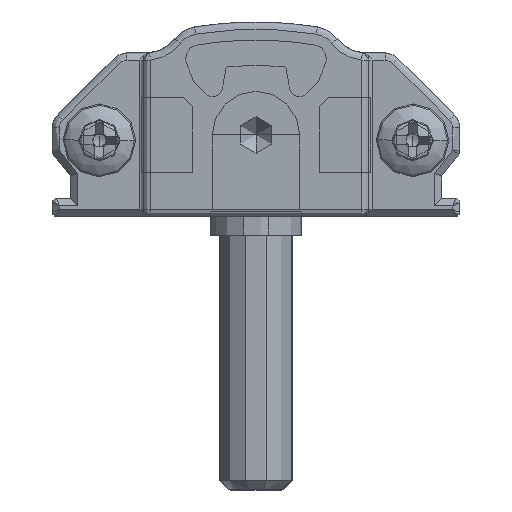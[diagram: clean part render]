
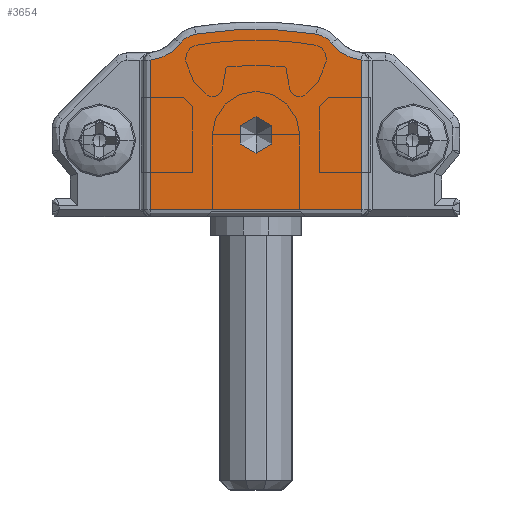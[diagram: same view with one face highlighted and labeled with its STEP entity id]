
A CAD part, front view. The second image highlights one B-rep face of the part: STEP entity #3654.
In plain terms, the highlighted planar face has unit normal (0, -1, 0).
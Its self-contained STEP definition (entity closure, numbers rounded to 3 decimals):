
#193 = EDGE_CURVE ( 'NONE', #46287, #13852, #4787, .T. ) ;
#593 = CARTESIAN_POINT ( 'NONE',  ( 5.162, -15., 11. ) ) ;
#653 = CARTESIAN_POINT ( 'NONE',  ( 5.4, -15., 0.4 ) ) ;
#662 = CARTESIAN_POINT ( 'NONE',  ( 14.3, -15., 8.75 ) ) ;
#3278 = VERTEX_POINT ( 'NONE', #33122 ) ;
#3499 = VERTEX_POINT ( 'NONE', #20748 ) ;
#3533 = AXIS2_PLACEMENT_3D ( 'NONE', #662, #25837, #21174 ) ;
#3541 = VERTEX_POINT ( 'NONE', #45915 ) ;
#3654 = ADVANCED_FACE ( 'NONE', ( #40175, #17892 ), #10951, .T. ) ;
#4308 = VERTEX_POINT ( 'NONE', #40908 ) ;
#4335 = CARTESIAN_POINT ( 'NONE',  ( 22.15, -15., 3.606 ) ) ;
#4787 = CIRCLE ( 'NONE', #31346, 2.4 ) ;
#4869 = DIRECTION ( 'NONE',  ( 0., 0., -1. ) ) ;
#4993 = CARTESIAN_POINT ( 'NONE',  ( 7.068, -15., 9.541 ) ) ;
#5138 = CIRCLE ( 'NONE', #24878, 1. ) ;
#5271 = VECTOR ( 'NONE', #9694, 1000. ) ;
#5775 = CIRCLE ( 'NONE', #3533, 1.3 ) ;
#6877 = EDGE_LOOP ( 'NONE', ( #16548, #38852, #44371, #19578, #12043, #13942, #20841, #23109 ) ) ;
#7209 = CARTESIAN_POINT ( 'NONE',  ( 11.2, -15., 4.5 ) ) ;
#7555 = CARTESIAN_POINT ( 'NONE',  ( 8.1, -15., 8.75 ) ) ;
#8182 = CARTESIAN_POINT ( 'NONE',  ( 11.2, -15., 4.5 ) ) ;
#9694 = DIRECTION ( 'NONE',  ( 1., 0., 0. ) ) ;
#10792 = EDGE_LOOP ( 'NONE', ( #26060, #15019 ) ) ;
#10921 = DIRECTION ( 'NONE',  ( 0., 0., -1. ) ) ;
#10951 = PLANE ( 'NONE',  #39813 ) ;
#11096 = DIRECTION ( 'NONE',  ( 0., -1., 0. ) ) ;
#12043 = ORIENTED_EDGE ( 'NONE', *, *, #37421, .T. ) ;
#12061 = AXIS2_PLACEMENT_3D ( 'NONE', #7555, #11096, #29657 ) ;
#13852 = VERTEX_POINT ( 'NONE', #15425 ) ;
#13942 = ORIENTED_EDGE ( 'NONE', *, *, #193, .T. ) ;
#14546 = DIRECTION ( 'NONE',  ( 0., -1., 0. ) ) ;
#15019 = ORIENTED_EDGE ( 'NONE', *, *, #22190, .F. ) ;
#15425 = CARTESIAN_POINT ( 'NONE',  ( 5.4, -15., 8.612 ) ) ;
#16364 = AXIS2_PLACEMENT_3D ( 'NONE', #30783, #30546, #20089 ) ;
#16502 = CARTESIAN_POINT ( 'NONE',  ( 7.892, -15., 10.034 ) ) ;
#16548 = ORIENTED_EDGE ( 'NONE', *, *, #37458, .T. ) ;
#16581 = DIRECTION ( 'NONE',  ( 0., -1., 0. ) ) ;
#16608 = CARTESIAN_POINT ( 'NONE',  ( 17., -15., 0.4 ) ) ;
#17892 = FACE_BOUND ( 'NONE', #10792, .T. ) ;
#18132 = CARTESIAN_POINT ( 'NONE',  ( 5.4, -15., 0.4 ) ) ;
#18247 = DIRECTION ( 'NONE',  ( 0., 0., 1. ) ) ;
#19355 = DIRECTION ( 'NONE',  ( 0., -1., 0. ) ) ;
#19578 = ORIENTED_EDGE ( 'NONE', *, *, #35320, .T. ) ;
#19780 = VECTOR ( 'NONE', #32941, 1000. ) ;
#20089 = DIRECTION ( 'NONE',  ( 0., 0., -1. ) ) ;
#20748 = CARTESIAN_POINT ( 'NONE',  ( 14.508, -15., 10.034 ) ) ;
#20841 = ORIENTED_EDGE ( 'NONE', *, *, #29854, .T. ) ;
#20940 = CIRCLE ( 'NONE', #42148, 1. ) ;
#21174 = DIRECTION ( 'NONE',  ( 0., 0., -1. ) ) ;
#21992 = DIRECTION ( 'NONE',  ( 0., 1., 0. ) ) ;
#22086 = CARTESIAN_POINT ( 'NONE',  ( 17., -15., 8.612 ) ) ;
#22190 = EDGE_CURVE ( 'NONE', #4308, #3278, #20940, .T. ) ;
#23109 = ORIENTED_EDGE ( 'NONE', *, *, #35429, .T. ) ;
#23500 = CIRCLE ( 'NONE', #39410, 20.676 ) ;
#24878 = AXIS2_PLACEMENT_3D ( 'NONE', #8182, #19355, #4869 ) ;
#24930 = VERTEX_POINT ( 'NONE', #16502 ) ;
#24972 = VECTOR ( 'NONE', #18247, 1000. ) ;
#25837 = DIRECTION ( 'NONE',  ( 0., -1., 0. ) ) ;
#26060 = ORIENTED_EDGE ( 'NONE', *, *, #44832, .F. ) ;
#26257 = CIRCLE ( 'NONE', #16364, 2.4 ) ;
#26263 = EDGE_CURVE ( 'NONE', #3541, #43133, #26257, .T. ) ;
#29013 = CARTESIAN_POINT ( 'NONE',  ( 11.2, -15., -10.376 ) ) ;
#29657 = DIRECTION ( 'NONE',  ( 0., 0., -1. ) ) ;
#29854 = EDGE_CURVE ( 'NONE', #13852, #45103, #33414, .T. ) ;
#30546 = DIRECTION ( 'NONE',  ( 0., 1., 0. ) ) ;
#30783 = CARTESIAN_POINT ( 'NONE',  ( 17.238, -15., 11. ) ) ;
#31301 = VERTEX_POINT ( 'NONE', #37674 ) ;
#31346 = AXIS2_PLACEMENT_3D ( 'NONE', #593, #21992, #35980 ) ;
#31597 = LINE ( 'NONE', #16608, #5271 ) ;
#32519 = LINE ( 'NONE', #22086, #24972 ) ;
#32575 = CIRCLE ( 'NONE', #12061, 1.3 ) ;
#32941 = DIRECTION ( 'NONE',  ( 0., 0., -1. ) ) ;
#33122 = CARTESIAN_POINT ( 'NONE',  ( 11.2, -15., 3.5 ) ) ;
#33414 = LINE ( 'NONE', #653, #19780 ) ;
#34894 = DIRECTION ( 'NONE',  ( 0., 0., -1. ) ) ;
#35320 = EDGE_CURVE ( 'NONE', #3499, #24930, #23500, .T. ) ;
#35429 = EDGE_CURVE ( 'NONE', #45103, #31301, #31597, .T. ) ;
#35745 = DIRECTION ( 'NONE',  ( 0., 0., -1. ) ) ;
#35980 = DIRECTION ( 'NONE',  ( 0., 0., -1. ) ) ;
#37421 = EDGE_CURVE ( 'NONE', #24930, #46287, #32575, .T. ) ;
#37458 = EDGE_CURVE ( 'NONE', #31301, #3541, #32519, .T. ) ;
#37674 = CARTESIAN_POINT ( 'NONE',  ( 17., -15., 0.4 ) ) ;
#38852 = ORIENTED_EDGE ( 'NONE', *, *, #26263, .T. ) ;
#38906 = CARTESIAN_POINT ( 'NONE',  ( 15.332, -15., 9.541 ) ) ;
#39410 = AXIS2_PLACEMENT_3D ( 'NONE', #29013, #43475, #10921 ) ;
#39813 = AXIS2_PLACEMENT_3D ( 'NONE', #4335, #16581, #34894 ) ;
#40175 = FACE_OUTER_BOUND ( 'NONE', #6877, .T. ) ;
#40908 = CARTESIAN_POINT ( 'NONE',  ( 11.2, -15., 5.5 ) ) ;
#41999 = EDGE_CURVE ( 'NONE', #43133, #3499, #5775, .T. ) ;
#42148 = AXIS2_PLACEMENT_3D ( 'NONE', #7209, #14546, #35745 ) ;
#43133 = VERTEX_POINT ( 'NONE', #38906 ) ;
#43475 = DIRECTION ( 'NONE',  ( 0., -1., 0. ) ) ;
#44371 = ORIENTED_EDGE ( 'NONE', *, *, #41999, .T. ) ;
#44832 = EDGE_CURVE ( 'NONE', #3278, #4308, #5138, .T. ) ;
#45103 = VERTEX_POINT ( 'NONE', #18132 ) ;
#45915 = CARTESIAN_POINT ( 'NONE',  ( 17., -15., 8.612 ) ) ;
#46287 = VERTEX_POINT ( 'NONE', #4993 ) ;
